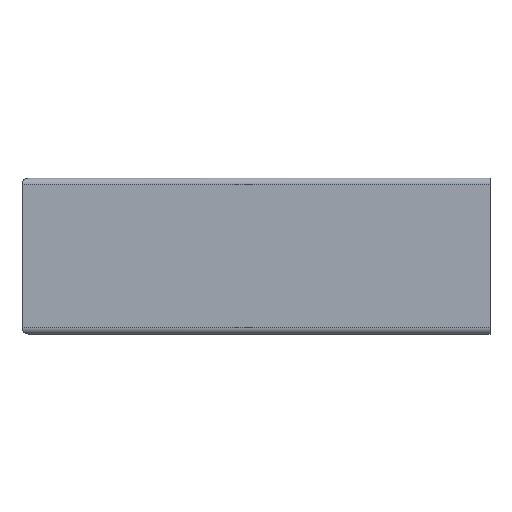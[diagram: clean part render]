
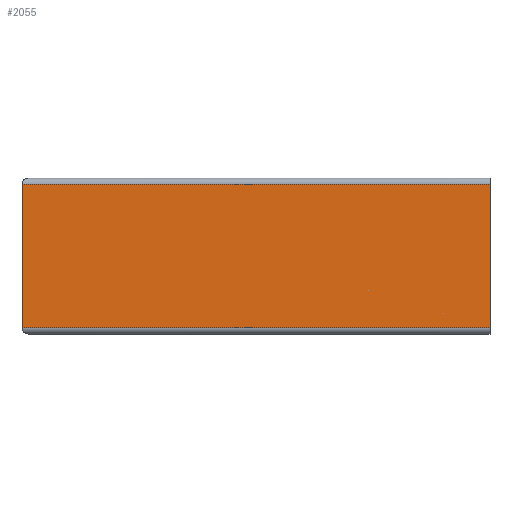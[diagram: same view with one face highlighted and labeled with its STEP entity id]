
A CAD part, front view. The second image highlights one B-rep face of the part: STEP entity #2055.
In plain terms, the highlighted planar face has unit normal (0, -1, 0).
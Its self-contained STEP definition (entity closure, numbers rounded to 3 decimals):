
#2055=ADVANCED_FACE('',(#3595),#3597,.T.);
#3595=FACE_BOUND('',#3596,.T.);
#3596=EDGE_LOOP('',(#5034,#5035,#5036,#5037));
#3597=PLANE('',#3598);
#3598=AXIS2_PLACEMENT_3D('',#3599,#3600,#3601);
#3599=CARTESIAN_POINT('',(-300.,-50.,46.));
#3600=DIRECTION('',(0.,-1.,0.));
#3601=DIRECTION('',(0.,0.,-1.));
#5034=ORIENTED_EDGE('',*,*,#5746,.T.);
#5035=ORIENTED_EDGE('',*,*,#5775,.T.);
#5036=ORIENTED_EDGE('',*,*,#5760,.F.);
#5037=ORIENTED_EDGE('',*,*,#5776,.F.);
#5746=EDGE_CURVE('',#6778,#6776,#6779,.F.);
#5760=EDGE_CURVE('',#6802,#6804,#6805,.T.);
#5775=EDGE_CURVE('',#6776,#6804,#6827,.T.);
#5776=EDGE_CURVE('',#6778,#6802,#6828,.T.);
#6776=VERTEX_POINT('',#9020);
#6778=VERTEX_POINT('',#9025);
#6779=LINE('',#9026,#9027);
#6802=VERTEX_POINT('',#9081);
#6804=VERTEX_POINT('',#9086);
#6805=LINE('',#9087,#9088);
#6827=LINE('',#9145,#9146);
#6828=LINE('',#9148,#9149);
#9020=CARTESIAN_POINT('',(-300.,-50.,-46.));
#9025=CARTESIAN_POINT('',(-300.,-50.,46.));
#9026=CARTESIAN_POINT('',(-300.,-50.,-46.));
#9027=VECTOR('',#9028,1.);
#9028=DIRECTION('',(0.,0.,1.));
#9081=CARTESIAN_POINT('',(0.,-50.,46.));
#9086=CARTESIAN_POINT('',(0.,-50.,-46.));
#9087=CARTESIAN_POINT('',(0.,-50.,46.));
#9088=VECTOR('',#9089,1.);
#9089=DIRECTION('',(0.,0.,-1.));
#9145=CARTESIAN_POINT('',(-300.,-50.,-46.));
#9146=VECTOR('',#9147,1.);
#9147=DIRECTION('',(1.,0.,0.));
#9148=CARTESIAN_POINT('',(-300.,-50.,46.));
#9149=VECTOR('',#9150,1.);
#9150=DIRECTION('',(1.,0.,0.));
